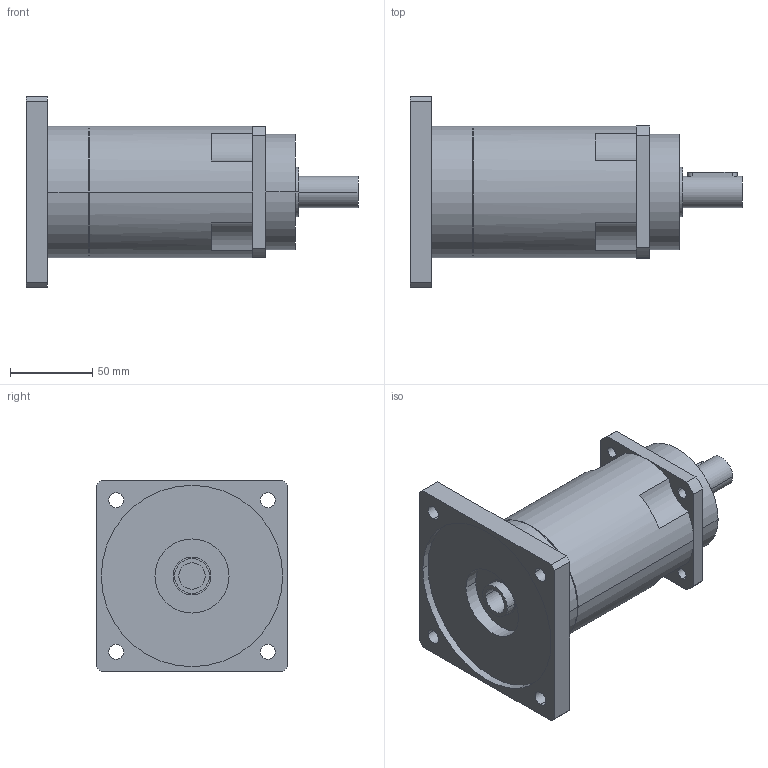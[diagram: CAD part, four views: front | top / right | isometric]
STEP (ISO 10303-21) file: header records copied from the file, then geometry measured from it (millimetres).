
FILE_DESCRIPTION(('CoCreate Modeling STEP Export'),'2;1');
FILE_NAME('GPR100_ig-48-64-80-100-120-144-180-216_19_B5_16_P08.stp','2014-08-26T11:56:08',(''),(''),'CoCreate Modeling STEP processor for AP214 (Solid Model)','CoCreate Modeling 16.00C 25-Feb-2009 (C) Parametric Technology GmbH','');
FILE_SCHEMA(('AUTOMOTIVE_DESIGN { 1 0 10303 214 1 1 1 1 }'));
Length unit declared in the file: millimetre
Products named in the file (2): GPR100_ig-48-64-80-100-120-144-180-216_19_B5_16_P08
Assembly tree (1 placements, depth 2):
  GPR100_ig-48-64-80-100-120-144-180-216_19_B5_16_P08
    GPR100_ig-48-64-80-100-120-144-180-216_19_B5_16_P08
Bounding box: 201.4 x 116 x 116 mm (x, y, z)
Volume: 857325.3 mm3; surface area: 83146.9 mm2
Topology: 1 solids, 1 shells, 89 faces, 247 edges, 169 vertices
Faces by surface type: cylinder 52, plane 31, cone 6
Entity records: 2612 total; most frequent: ORIENTED_EDGE 490, CARTESIAN_POINT 474, DIRECTION 386, EDGE_CURVE 245, VERTEX_POINT 169, AXIS2_PLACEMENT_3D 145, EDGE_LOOP 116, VECTOR 96
